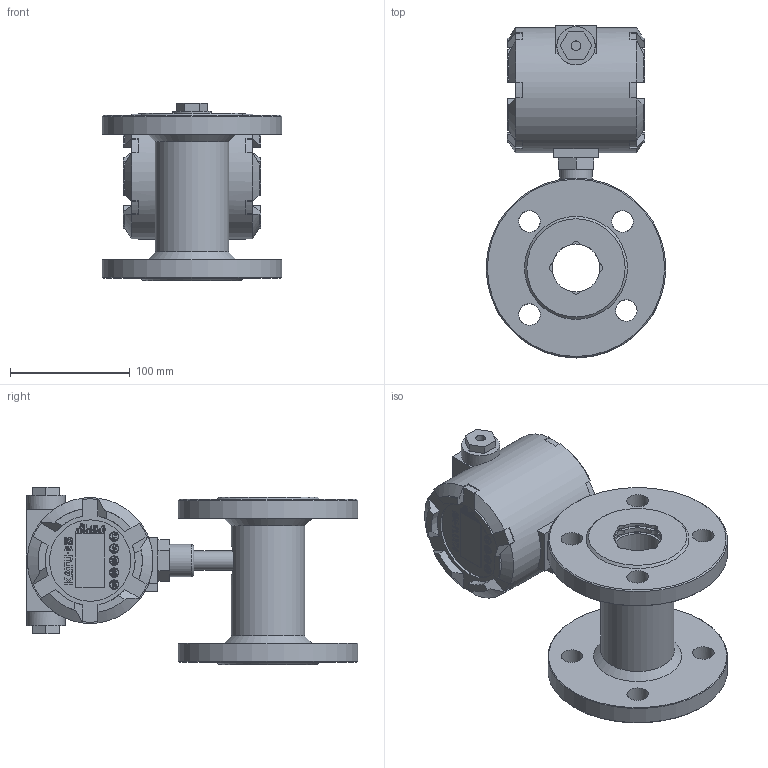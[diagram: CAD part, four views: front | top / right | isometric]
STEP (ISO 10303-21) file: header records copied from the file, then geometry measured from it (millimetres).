
FILE_DESCRIPTION( (''), '2;1');
FILE_NAME( 'QTKC_DN40_flange_Ex.step', '2024-10-14T10:21:13+08:00', (''), (''), '', '', '');
FILE_SCHEMA (('AUTOMOTIVE_DESIGN { 1 0 10303 214 3 1 1 1 }'));
Length unit declared in the file: millimetre
Products named in the file (1): QTKC DN40_flange_Ex
Bounding box: 150 x 277 x 148.2 mm (x, y, z)
Volume: 1636874.2 mm3; surface area: 198364.1 mm2
Topology: 4 solids, 4 shells, 1380 faces, 3773 edges, 2513 vertices
Faces by surface type: plane 731, extrusion 504, cylinder 114, cone 23, torus 6, bspline 2
Full cylindrical faces by diameter (mm): 3.3 x1, 8 x2, 16 x1, 16.5 x1, 18 x8, 18.5 x1, 20 x2, 27 x1, 32 x2, 40 x1, 45 x4, 61.5 x1, 68 x1, 105 x1, 150 x2
Entity records: 46852 total; most frequent: CARTESIAN_POINT 14002, ORIENTED_EDGE 7406, DIRECTION 5131, EDGE_CURVE 3703, VECTOR 2815, VERTEX_POINT 2488, LINE 2311, B_SPLINE_CURVE_WITH_KNOTS 1613
